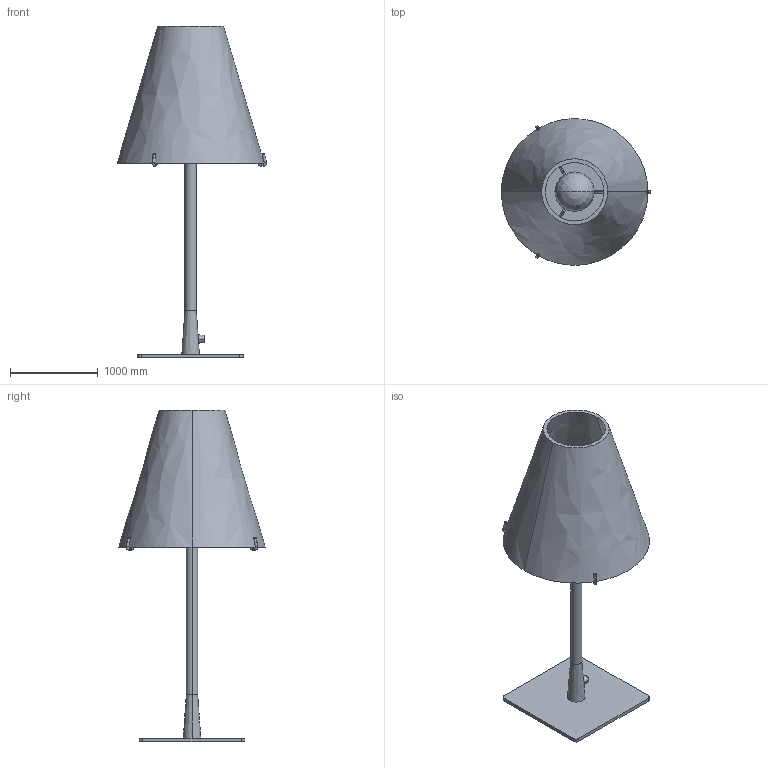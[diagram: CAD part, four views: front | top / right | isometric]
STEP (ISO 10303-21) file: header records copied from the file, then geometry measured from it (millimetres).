
FILE_DESCRIPTION(/* description */ (''),/* implementation_level */ '2;1');
FILE_NAME(/* name */ '2110',/* time_stamp */ '2022-01-20T16:05:41+01:00',/* author */ (''),/* organization */ (''),/* preprocessor_version */ 'ST-DEVELOPER v16.5',/* originating_system */ '',/* authorisation */ '');
FILE_SCHEMA (('CONFIG_CONTROL_DESIGN'));
Length unit declared in the file: centimetre
Products named in the file (1): Document
Bounding box: 1701.23 x 1667.96 x 3779.47 mm (x, y, z)
Volume: 400217689.1 mm3; surface area: 19376100.7 mm2
Topology: 5 solids, 5 shells, 176 faces, 466 edges, 297 vertices
Faces by surface type: cylinder 79, bspline 56, plane 41
Entity records: 7077 total; most frequent: CARTESIAN_POINT 4123, ORIENTED_EDGE 924, EDGE_CURVE 462, VERTEX_POINT 295, B_SPLINE_CURVE_WITH_KNOTS 227, EDGE_LOOP 205, ADVANCED_FACE 176, FACE_OUTER_BOUND 176
